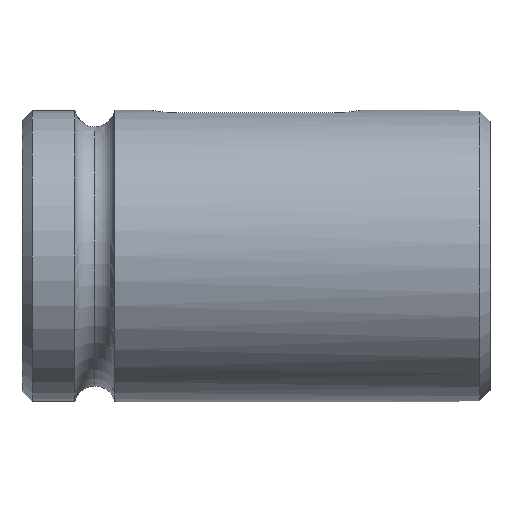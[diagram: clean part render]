
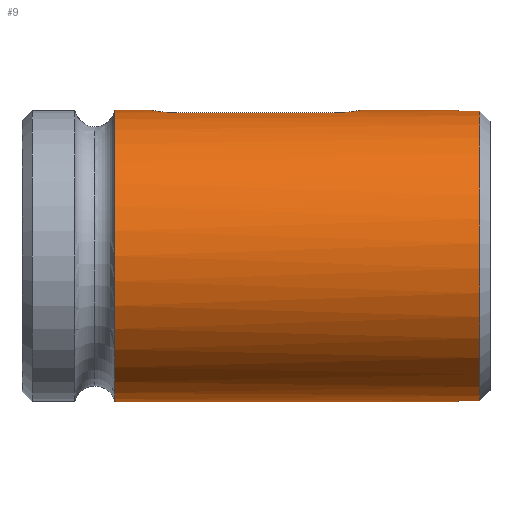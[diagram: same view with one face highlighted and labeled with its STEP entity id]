
A CAD part, front view. The second image highlights one B-rep face of the part: STEP entity #9.
In plain terms, the highlighted cylindrical face has radius 14 mm (diameter 28 mm), a partial arc.
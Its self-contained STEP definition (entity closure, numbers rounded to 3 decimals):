
#2 = DIRECTION ( 'NONE',  ( 1., 0., 0. ) ) ;
#6 = AXIS2_PLACEMENT_3D ( 'NONE', #863, #871, #50 ) ;
#9 = ADVANCED_FACE ( 'NONE', ( #772 ), #250, .T. ) ;
#25 = CARTESIAN_POINT ( 'NONE',  ( -31.988, -1.525, 13.917 ) ) ;
#42 = CARTESIAN_POINT ( 'NONE',  ( -12.58, -0.649, 13.986 ) ) ;
#50 = DIRECTION ( 'NONE',  ( 0., 0., 1. ) ) ;
#72 = DIRECTION ( 'NONE',  ( 0., 0., 1. ) ) ;
#90 = ORIENTED_EDGE ( 'NONE', *, *, #1082, .T. ) ;
#99 = VERTEX_POINT ( 'NONE', #1012 ) ;
#115 = EDGE_CURVE ( 'NONE', #455, #982, #980, .T. ) ;
#119 = CARTESIAN_POINT ( 'NONE',  ( -31.652, -1.884, 13.873 ) ) ;
#122 = CARTESIAN_POINT ( 'NONE',  ( -14.834, -2.5, 13.775 ) ) ;
#130 = VERTEX_POINT ( 'NONE', #1118 ) ;
#133 = CARTESIAN_POINT ( 'NONE',  ( -12.5, -0.163, 14. ) ) ;
#161 = CARTESIAN_POINT ( 'NONE',  ( -15., -2.5, 13.775 ) ) ;
#167 = VERTEX_POINT ( 'NONE', #752 ) ;
#178 = VERTEX_POINT ( 'NONE', #1033 ) ;
#187 = CIRCLE ( 'NONE', #542, 14. ) ;
#194 = AXIS2_PLACEMENT_3D ( 'NONE', #1150, #616, #72 ) ;
#210 = CARTESIAN_POINT ( 'NONE',  ( -31.256, -2.168, 13.831 ) ) ;
#219 = CARTESIAN_POINT ( 'NONE',  ( -14.352, -2.42, 13.789 ) ) ;
#250 = CYLINDRICAL_SURFACE ( 'NONE', #6, 14. ) ;
#252 = DIRECTION ( 'NONE',  ( -1., 0., 0. ) ) ;
#255 = CARTESIAN_POINT ( 'NONE',  ( -36.064, 0., 0. ) ) ;
#260 = CARTESIAN_POINT ( 'NONE',  ( -3., 0., 0. ) ) ;
#266 = DIRECTION ( 'NONE',  ( -1., 0., 0. ) ) ;
#294 = CARTESIAN_POINT ( 'NONE',  ( -32.5, -0.163, 14. ) ) ;
#303 = CARTESIAN_POINT ( 'NONE',  ( -30.808, -2.372, 13.798 ) ) ;
#312 = CARTESIAN_POINT ( 'NONE',  ( -13.89, -2.246, 13.819 ) ) ;
#314 = EDGE_LOOP ( 'NONE', ( #831, #915, #316, #500, #521, #853, #90, #633, #458, #461, #961, #613 ) ) ;
#316 = ORIENTED_EDGE ( 'NONE', *, *, #596, .T. ) ;
#319 = CARTESIAN_POINT ( 'NONE',  ( -3., -1.5, -13.919 ) ) ;
#340 = EDGE_CURVE ( 'NONE', #380, #637, #187, .T. ) ;
#346 = DIRECTION ( 'NONE',  ( 0., 0., 1. ) ) ;
#347 = CIRCLE ( 'NONE', #604, 14. ) ;
#353 = B_SPLINE_CURVE_WITH_KNOTS ( 'NONE', 3,
 ( #1027, #122, #764, #219, #854, #312, #943, #409, #1035, #501, #1125, #591, #42, #680, #133, #768 ),
 .UNSPECIFIED., .F., .F.,
 ( 4, 2, 2, 2, 2, 2, 2, 4 ),
 ( 0., 0., 0.001, 0.001, 0.002, 0.003, 0.003, 0.004 ),
 .UNSPECIFIED. ) ;
#354 = DIRECTION ( 'NONE',  ( 0., -1., 0. ) ) ;
#357 = VECTOR ( 'NONE', #2, 1000. ) ;
#359 = EDGE_CURVE ( 'NONE', #455, #130, #645, .T. ) ;
#360 = CARTESIAN_POINT ( 'NONE',  ( -67.863, 0., -14. ) ) ;
#362 = EDGE_CURVE ( 'NONE', #611, #167, #887, .T. ) ;
#380 = VERTEX_POINT ( 'NONE', #1157 ) ;
#384 = EDGE_CURVE ( 'NONE', #167, #178, #347, .T. ) ;
#389 = LINE ( 'NONE', #360, #424 ) ;
#391 = CARTESIAN_POINT ( 'NONE',  ( -32.5, 0., 14. ) ) ;
#396 = CARTESIAN_POINT ( 'NONE',  ( -30.331, -2.483, 13.778 ) ) ;
#409 = CARTESIAN_POINT ( 'NONE',  ( -13.475, -1.988, 13.858 ) ) ;
#418 = VECTOR ( 'NONE', #440, 1000. ) ;
#424 = VECTOR ( 'NONE', #266, 1000. ) ;
#435 = CARTESIAN_POINT ( 'NONE',  ( -67.863, -1.5, 13.919 ) ) ;
#438 = VECTOR ( 'NONE', #1153, 1000. ) ;
#440 = DIRECTION ( 'NONE',  ( -1., 0., 0. ) ) ;
#455 = VERTEX_POINT ( 'NONE', #1175 ) ;
#458 = ORIENTED_EDGE ( 'NONE', *, *, #983, .F. ) ;
#461 = ORIENTED_EDGE ( 'NONE', *, *, #115, .F. ) ;
#470 = VERTEX_POINT ( 'NONE', #916 ) ;
#474 = CIRCLE ( 'NONE', #194, 14. ) ;
#481 = LINE ( 'NONE', #1126, #665 ) ;
#485 = CARTESIAN_POINT ( 'NONE',  ( -32.372, -0.806, 13.978 ) ) ;
#492 = CARTESIAN_POINT ( 'NONE',  ( -30., -2.5, 13.775 ) ) ;
#495 = VERTEX_POINT ( 'NONE', #562 ) ;
#500 = ORIENTED_EDGE ( 'NONE', *, *, #823, .T. ) ;
#501 = CARTESIAN_POINT ( 'NONE',  ( -13.001, -1.537, 13.917 ) ) ;
#502 = DIRECTION ( 'NONE',  ( 1., 0., 0. ) ) ;
#521 = ORIENTED_EDGE ( 'NONE', *, *, #362, .T. ) ;
#542 = AXIS2_PLACEMENT_3D ( 'NONE', #798, #252, #888 ) ;
#562 = CARTESIAN_POINT ( 'NONE',  ( -1., -1.5, -13.919 ) ) ;
#576 = CARTESIAN_POINT ( 'NONE',  ( -32.169, -1.254, 13.944 ) ) ;
#591 = CARTESIAN_POINT ( 'NONE',  ( -12.628, -0.807, 13.978 ) ) ;
#596 = EDGE_CURVE ( 'NONE', #637, #495, #481, .T. ) ;
#604 = AXIS2_PLACEMENT_3D ( 'NONE', #260, #895, #354 ) ;
#611 = VERTEX_POINT ( 'NONE', #950 ) ;
#613 = ORIENTED_EDGE ( 'NONE', *, *, #1108, .F. ) ;
#616 = DIRECTION ( 'NONE',  ( -1., 0., 0. ) ) ;
#633 = ORIENTED_EDGE ( 'NONE', *, *, #691, .F. ) ;
#637 = VERTEX_POINT ( 'NONE', #319 ) ;
#645 = LINE ( 'NONE', #705, #418 ) ;
#663 = CARTESIAN_POINT ( 'NONE',  ( -31.884, -1.651, 13.903 ) ) ;
#665 = VECTOR ( 'NONE', #502, 1000. ) ;
#680 = CARTESIAN_POINT ( 'NONE',  ( -12.516, -0.326, 13.997 ) ) ;
#691 = EDGE_CURVE ( 'NONE', #830, #470, #353, .T. ) ;
#705 = CARTESIAN_POINT ( 'NONE',  ( -67.863, 0., 14. ) ) ;
#734 = CARTESIAN_POINT ( 'NONE',  ( -30., -2.5, 13.775 ) ) ;
#752 = CARTESIAN_POINT ( 'NONE',  ( -3., -1.5, 13.919 ) ) ;
#757 = CARTESIAN_POINT ( 'NONE',  ( -31.526, -1.987, 13.859 ) ) ;
#758 = CIRCLE ( 'NONE', #1162, 14. ) ;
#764 = CARTESIAN_POINT ( 'NONE',  ( -14.672, -2.484, 13.778 ) ) ;
#768 = CARTESIAN_POINT ( 'NONE',  ( -12.5, 0., 14. ) ) ;
#772 = FACE_OUTER_BOUND ( 'NONE', #314, .T. ) ;
#786 = LINE ( 'NONE', #846, #989 ) ;
#798 = CARTESIAN_POINT ( 'NONE',  ( -3., 0., 0. ) ) ;
#823 = EDGE_CURVE ( 'NONE', #495, #611, #474, .T. ) ;
#830 = VERTEX_POINT ( 'NONE', #161 ) ;
#831 = ORIENTED_EDGE ( 'NONE', *, *, #927, .F. ) ;
#835 = DIRECTION ( 'NONE',  ( -1., 0., 0. ) ) ;
#839 = CARTESIAN_POINT ( 'NONE',  ( -32.484, -0.329, 13.997 ) ) ;
#841 = LINE ( 'NONE', #991, #357 ) ;
#845 = CARTESIAN_POINT ( 'NONE',  ( -31.11, -2.246, 13.819 ) ) ;
#846 = CARTESIAN_POINT ( 'NONE',  ( -67.863, 0., 14. ) ) ;
#853 = ORIENTED_EDGE ( 'NONE', *, *, #384, .T. ) ;
#854 = CARTESIAN_POINT ( 'NONE',  ( -14.193, -2.372, 13.798 ) ) ;
#863 = CARTESIAN_POINT ( 'NONE',  ( -67.863, 0., 0. ) ) ;
#871 = DIRECTION ( 'NONE',  ( -1., 0., 0. ) ) ;
#887 = LINE ( 'NONE', #435, #438 ) ;
#888 = DIRECTION ( 'NONE',  ( 0., -1., 0. ) ) ;
#890 = DIRECTION ( 'NONE',  ( -1., 0., 0. ) ) ;
#895 = DIRECTION ( 'NONE',  ( -1., 0., 0. ) ) ;
#915 = ORIENTED_EDGE ( 'NONE', *, *, #340, .T. ) ;
#916 = CARTESIAN_POINT ( 'NONE',  ( -12.5, 0., 14. ) ) ;
#927 = EDGE_CURVE ( 'NONE', #380, #99, #389, .T. ) ;
#936 = CARTESIAN_POINT ( 'NONE',  ( -30.652, -2.419, 13.789 ) ) ;
#943 = CARTESIAN_POINT ( 'NONE',  ( -13.746, -2.169, 13.831 ) ) ;
#950 = CARTESIAN_POINT ( 'NONE',  ( -1., -1.5, 13.919 ) ) ;
#961 = ORIENTED_EDGE ( 'NONE', *, *, #359, .T. ) ;
#980 = B_SPLINE_CURVE_WITH_KNOTS ( 'NONE', 3,
 ( #391, #294, #839, #1017, #485, #1111, #576, #25, #663, #119, #757, #210, #845, #303, #936, #396, #1023, #492 ),
 .UNSPECIFIED., .F., .F.,
 ( 4, 2, 2, 2, 2, 2, 2, 2, 4 ),
 ( 0.004, 0.004, 0.005, 0.005, 0.006, 0.006, 0.007, 0.007, 0.008 ),
 .UNSPECIFIED. ) ;
#982 = VERTEX_POINT ( 'NONE', #734 ) ;
#983 = EDGE_CURVE ( 'NONE', #982, #830, #841, .T. ) ;
#989 = VECTOR ( 'NONE', #835, 1000. ) ;
#991 = CARTESIAN_POINT ( 'NONE',  ( -67.863, -2.5, 13.775 ) ) ;
#1012 = CARTESIAN_POINT ( 'NONE',  ( -36.064, 0., -14. ) ) ;
#1017 = CARTESIAN_POINT ( 'NONE',  ( -32.42, -0.65, 13.986 ) ) ;
#1023 = CARTESIAN_POINT ( 'NONE',  ( -30.165, -2.5, 13.775 ) ) ;
#1027 = CARTESIAN_POINT ( 'NONE',  ( -15., -2.5, 13.775 ) ) ;
#1033 = CARTESIAN_POINT ( 'NONE',  ( -3., 0., 14. ) ) ;
#1035 = CARTESIAN_POINT ( 'NONE',  ( -13.347, -1.882, 13.873 ) ) ;
#1082 = EDGE_CURVE ( 'NONE', #178, #470, #786, .T. ) ;
#1108 = EDGE_CURVE ( 'NONE', #99, #130, #758, .T. ) ;
#1111 = CARTESIAN_POINT ( 'NONE',  ( -32.247, -1.109, 13.957 ) ) ;
#1118 = CARTESIAN_POINT ( 'NONE',  ( -36.064, 0., 14. ) ) ;
#1125 = CARTESIAN_POINT ( 'NONE',  ( -12.815, -1.258, 13.947 ) ) ;
#1126 = CARTESIAN_POINT ( 'NONE',  ( -67.863, -1.5, -13.919 ) ) ;
#1150 = CARTESIAN_POINT ( 'NONE',  ( -1., 0., 0. ) ) ;
#1153 = DIRECTION ( 'NONE',  ( -1., 0., 0. ) ) ;
#1157 = CARTESIAN_POINT ( 'NONE',  ( -3., 0., -14. ) ) ;
#1162 = AXIS2_PLACEMENT_3D ( 'NONE', #255, #890, #346 ) ;
#1175 = CARTESIAN_POINT ( 'NONE',  ( -32.5, 0., 14. ) ) ;
